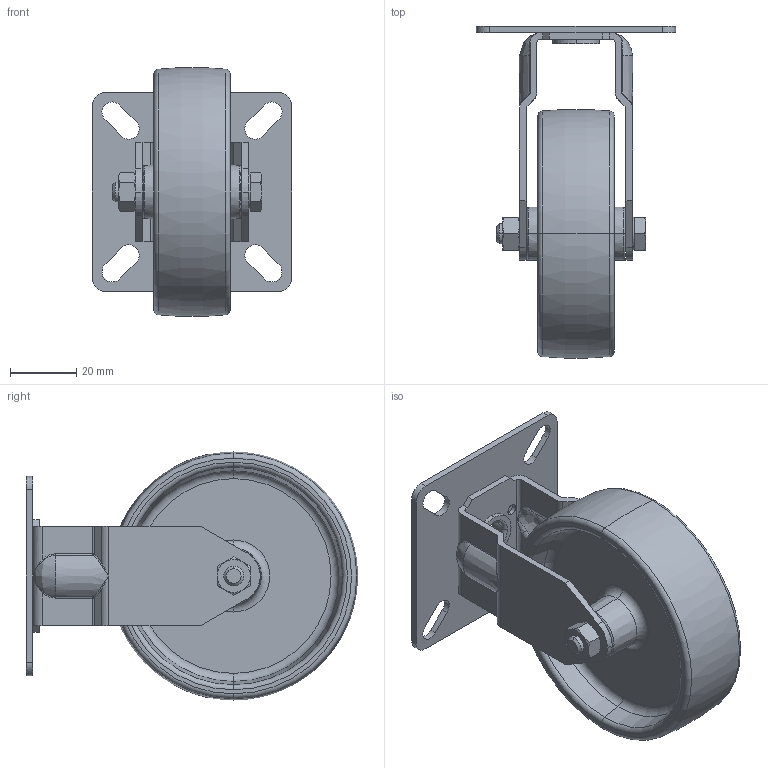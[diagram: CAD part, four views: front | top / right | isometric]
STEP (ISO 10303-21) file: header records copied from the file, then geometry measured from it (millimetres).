
FILE_DESCRIPTION (( 'STEP AP214' ), '1' );
FILE_NAME ('BPXA-PO_76G_754193-214.step', '2013-03-20T13:58:28', ( 'Matthias Senn' ), ( 'Blickle Räder+Rollen' ), 'SwSTEP 2.0', 'SolidWorks 2010', '' );
FILE_SCHEMA (( 'AUTOMOTIVE_DESIGN' ));
Length unit declared in the file: millimetre
Products named in the file (5): AM_LPA_06x34,1_D8; GH-BPXA075_G15; PO_G15_PO_76_8G_299982; PO-G-R_G15_PO_76_8G_299982; BPXA-PO_76G_754193-214
Assembly tree (4 placements, depth 3):
  BPXA-PO_76G_754193-214
    PO_G15_PO_76_8G_299982
      PO-G-R_G15_PO_76_8G_299982
    AM_LPA_06x34,1_D8
    GH-BPXA075_G15
Bounding box: 60 x 99.89 x 74.89 mm (x, y, z)
Volume: 63745.1 mm3; surface area: 35442.2 mm2
Topology: 3 solids, 3 shells, 794 faces, 2057 edges, 1333 vertices
Faces by surface type: plane 394, bspline 260, cylinder 71, cone 35, torus 26, sphere 8
Entity records: 51056 total; most frequent: CARTESIAN_POINT 24484, ORIENTED_EDGE 4114, DIRECTION 2811, EDGE_CURVE 2057, VERTEX_POINT 1333, LINE 1241, VECTOR 1241, EDGE_LOOP 870
